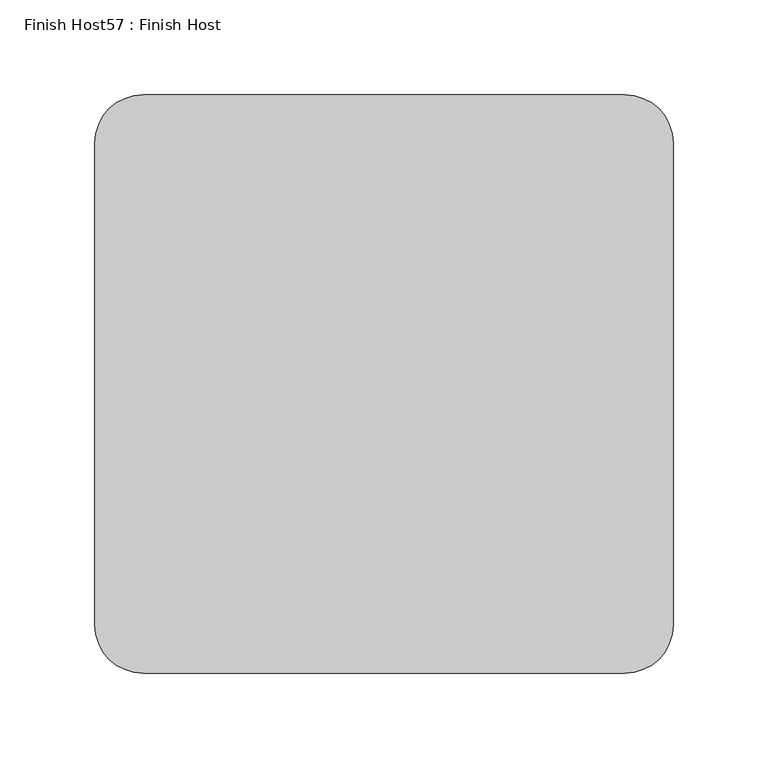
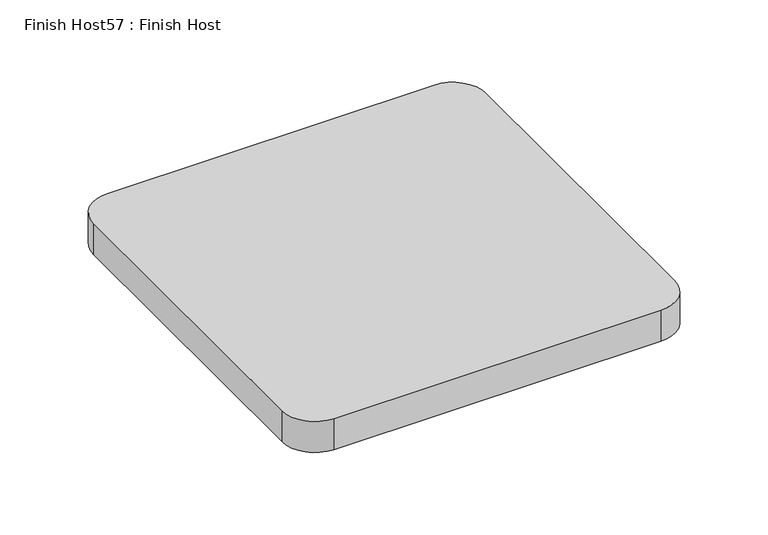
"""IFC4 building model written with IfcOpenShell, lengths in millimetres: proxy geometry, Finish Host57 : Finish Host."""

import ifcopenshell
import ifcopenshell.guid

model = None  # the IFC model being written
_history = None  # IfcOwnerHistory: only IFC2X3 demands one
_inside = {}  # id of a spatial element -> (the spatial element, [elements in it])
_under = {}  # id of a project, library or spatial element -> (it, [spatial elements below it])
_declared = {}  # id of a project -> (the project, [libraries it declares])
_typed = {}  # id of a type object -> (the type object, [elements of that type])
_made_of = {}  # id of a material, layer set ... -> (it, [elements and type objects made of it])


def new_model(schema):
    """Start an empty IFC model of exactly this schema.

    Asked for "IFC4X3", IfcOpenShell would pick the latest addendum, in which some entities
    have other attributes; the version numbers below select the first issue.
    IFC2X3 requires an IfcOwnerHistory on every rooted entity: one is made here for all.
    """
    global model, _history
    if schema == "IFC4X3":
        model = ifcopenshell.file(schema_version=(4, 3, 0, 0))
    else:
        model = ifcopenshell.file(schema=schema)
    _inside.clear()
    _under.clear()
    _declared.clear()
    _typed.clear()
    _made_of.clear()
    _history = None
    if model.schema == "IFC2X3":
        org = make("IfcOrganization", Name="unknown")
        user = make(
            "IfcPersonAndOrganization",
            ThePerson=make("IfcPerson", FamilyName="unknown"),
            TheOrganization=org,
        )
        app = make(
            "IfcApplication",
            ApplicationDeveloper=org,
            Version="unknown",
            ApplicationFullName="unknown",
            ApplicationIdentifier="unknown",
        )
        _history = make(
            "IfcOwnerHistory",
            OwningUser=user,
            OwningApplication=app,
            ChangeAction="ADDED",
            CreationDate=0,
        )
    return model


def make(cls, **values):
    """One entity of the class cls with the attributes given. An attribute that is None is left unset."""
    return model.create_entity(
        cls, **{name: value for name, value in values.items() if value is not None}
    )


def rooted(cls, **values):
    """An entity with a GlobalId (a new one), such as an element, a storey or a relation."""
    return make(cls, GlobalId=ifcopenshell.guid.new(), OwnerHistory=_history, **values)


def si_unit(unit_type, name, prefix=None):
    """IfcSIUnit, for example si_unit("LENGTHUNIT", "METRE", prefix="MILLI")."""
    return make("IfcSIUnit", UnitType=unit_type, Prefix=prefix, Name=name)


def assignment(units):
    """IfcUnitAssignment: the units of a project."""
    return None if units is None else make("IfcUnitAssignment", Units=units)


def point(xyz):
    """IfcCartesianPoint."""
    return None if xyz is None else make("IfcCartesianPoint", Coordinates=xyz)


def direction(xyz):
    """IfcDirection."""
    return None if xyz is None else make("IfcDirection", DirectionRatios=xyz)


def frame(location, z_axis=None, x_axis=None):
    """IfcAxis2Placement3D, a coordinate frame: its origin and axes. An axis left out is left unset."""
    return make(
        "IfcAxis2Placement3D",
        Location=point(location),
        Axis=direction(z_axis),
        RefDirection=direction(x_axis),
    )


def frame_2d(location, x_axis=None):
    """IfcAxis2Placement2D, a coordinate frame in the plane: its origin and x axis."""
    return make(
        "IfcAxis2Placement2D", Location=point(location), RefDirection=direction(x_axis)
    )


def origin():
    """The frame at (0, 0, 0) with its axes left unset."""
    return frame((0.0, 0.0, 0.0))


def origin_with_axes():
    """The frame at (0, 0, 0) with the z axis (0, 0, 1) and the x axis (1, 0, 0) written out."""
    return frame((0.0, 0.0, 0.0), z_axis=(0.0, 0.0, 1.0), x_axis=(1.0, 0.0, 0.0))


def place(relative_to, where):
    """IfcLocalPlacement: puts the frame where relative to a parent placement (None: the world)."""
    return make(
        "IfcLocalPlacement", PlacementRelTo=relative_to, RelativePlacement=where
    )


def context(
    kind, dimensions, precision=None, world=None, true_north=None, identifier=None
):
    """IfcGeometricRepresentationContext, for example the 3D "Model" context."""
    return make(
        "IfcGeometricRepresentationContext",
        ContextIdentifier=identifier,
        ContextType=kind,
        CoordinateSpaceDimension=dimensions,
        Precision=precision,
        WorldCoordinateSystem=world,
        TrueNorth=true_north,
    )


def project(units=None, contexts=None):
    """IfcProject with its units and contexts."""
    return rooted(
        "IfcProject",
        Name="project",
        RepresentationContexts=contexts,
        UnitsInContext=assignment(units),
    )


def spatial(cls, under=None, at=None, **own):
    """A site, building, storey or space (cls), placed at a placement, below another one or the project."""
    s = rooted(cls, ObjectPlacement=at, **own)
    if under is not None:
        _under.setdefault(under.id(), (under, []))[1].append(s)
    return s


def polyline(points):
    """IfcPolyline through the points."""
    return make("IfcPolyline", Points=[point(p) for p in points])


def circle_curve(where, radius):
    """IfcCircle in the frame where."""
    return make("IfcCircle", Position=where, Radius=radius)


def trimmed(basis, trim1, trim2, sense, master):
    """IfcTrimmedCurve: the piece of a basis curve between two trims."""
    return make(
        "IfcTrimmedCurve",
        BasisCurve=basis,
        Trim1=trim1,
        Trim2=trim2,
        SenseAgreement=sense,
        MasterRepresentation=master,
    )


def segment(curve, same_sense, transition):
    """IfcCompositeCurveSegment."""
    return make(
        "IfcCompositeCurveSegment",
        Transition=transition,
        SameSense=same_sense,
        ParentCurve=curve,
    )


def composite_curve(segments, self_intersect=None):
    """IfcCompositeCurve: segments joined end to end."""
    return make("IfcCompositeCurve", Segments=segments, SelfIntersect=self_intersect)


def outline(outer, holes=None, kind="AREA"):
    """IfcArbitraryClosedProfileDef: a profile drawn as a closed curve; with holes, ...WithVoids."""
    if holes is None:
        return make("IfcArbitraryClosedProfileDef", ProfileType=kind, OuterCurve=outer)
    return make(
        "IfcArbitraryProfileDefWithVoids",
        ProfileType=kind,
        OuterCurve=outer,
        InnerCurves=holes,
    )


def extrude(swept, where, along, depth):
    """IfcExtrudedAreaSolid: the profile swept, set in the frame where, extruded along a direction by depth."""
    return make(
        "IfcExtrudedAreaSolid",
        SweptArea=swept,
        Position=where,
        ExtrudedDirection=direction(along),
        Depth=depth,
    )


def shape(context_of_items, identifier, shape_type, items):
    """IfcShapeRepresentation: the items that make up one representation, for example the "Body"."""
    return make(
        "IfcShapeRepresentation",
        ContextOfItems=context_of_items,
        RepresentationIdentifier=identifier,
        RepresentationType=shape_type,
        Items=items,
    )


def source(mapping_origin, context_of_items, identifier, shape_type, items):
    """IfcRepresentationMap: a shape defined once, which mapped items show again and again."""
    return make(
        "IfcRepresentationMap",
        MappingOrigin=mapping_origin,
        MappedRepresentation=shape(context_of_items, identifier, shape_type, items),
    )


def transform(
    local_origin,
    x_axis=None,
    y_axis=None,
    z_axis=None,
    scale=None,
    scale2=None,
    scale3=None,
    uniform=True,
):
    """IfcCartesianTransformationOperator3D, or its non-uniform kind. x_axis, y_axis, z_axis: its Axis1, 2, 3."""
    if uniform:
        return make(
            "IfcCartesianTransformationOperator3D",
            Axis1=direction(x_axis),
            Axis2=direction(y_axis),
            LocalOrigin=point(local_origin),
            Scale=scale,
            Axis3=direction(z_axis),
        )
    return make(
        "IfcCartesianTransformationOperator3DnonUniform",
        Axis1=direction(x_axis),
        Axis2=direction(y_axis),
        LocalOrigin=point(local_origin),
        Scale=scale,
        Axis3=direction(z_axis),
        Scale2=scale2,
        Scale3=scale3,
    )


def mapped(mapping_source, mapping_target):
    """IfcMappedItem: shows the shape of a source again, moved by a transform."""
    return make(
        "IfcMappedItem", MappingSource=mapping_source, MappingTarget=mapping_target
    )


def made_of(thing, what):
    """Note that an element or type object is made of a material, layer set ...; save() writes the relation."""
    if what is not None:
        _made_of.setdefault(what.id(), (what, []))[1].append(thing)
    return thing


def element(
    cls,
    number,
    at=None,
    inside=None,
    cuts=None,
    type_object=None,
    material=None,
    context=None,
    identifier="Body",
    shape_type=None,
    held_by="IfcProductDefinitionShape",
    body=None,
    shapes=None,
    **own,
):
    """One element of the class cls, such as IfcWall. Its Tag is "e" and its number.

    at: its placement. inside: the storey or other place that contains it. cuts: it is an
    opening in that element (IfcRelVoidsElement). A single representation is given by context,
    identifier, shape_type and body (its items); several are given by shapes. held_by: the class
    of the entity that holds the representations. save() writes the other relations.
    """
    e = rooted(cls, Tag="e%d" % number, ObjectPlacement=at, **own)
    if body is not None:
        shapes = [shape(context, identifier, shape_type, body)]
    if shapes is not None:
        e.Representation = make(held_by, Representations=shapes)
    if inside is not None:
        _inside.setdefault(inside.id(), (inside, []))[1].append(e)
    if cuts is not None:
        rooted(
            "IfcRelVoidsElement", RelatingBuildingElement=cuts, RelatedOpeningElement=e
        )
    if type_object is not None:
        _typed.setdefault(type_object.id(), (type_object, []))[1].append(e)
    return made_of(e, material)


def aggregate(whole, parts):
    """IfcRelAggregates: a whole, such as a stair, and the parts it consists of."""
    return rooted("IfcRelAggregates", RelatingObject=whole, RelatedObjects=parts)


def save(model, path):
    """Write the relations noted so far, then the file.

    IfcRelAggregates (storeys below a building ...), IfcRelContainedInSpatialStructure (elements
    in a storey), IfcRelDefinesByType, IfcRelAssociatesMaterial and IfcRelDeclares: one each for
    every whole, place, type object, material and project.
    """
    for whole, parts in _under.values():
        aggregate(whole, parts)
    for where, things in _inside.values():
        rooted(
            "IfcRelContainedInSpatialStructure",
            RelatedElements=things,
            RelatingStructure=where,
        )
    for kind, things in _typed.values():
        rooted("IfcRelDefinesByType", RelatedObjects=things, RelatingType=kind)
    for what, things in _made_of.values():
        rooted("IfcRelAssociatesMaterial", RelatedObjects=things, RelatingMaterial=what)
    for by, libraries in _declared.values():
        rooted("IfcRelDeclares", RelatingContext=by, RelatedDefinitions=libraries)
    model.write(path)


def finish_host57_finish_host_ed8a52d6(model_context):
    return source(origin(), model_context, "Body", "SweptSolid", [
        extrude(outline(composite_curve([segment(polyline([(2308.6934426, 546.4122951), (2308.6934426, 800.4122951)]), True, "CONTINUOUS"), segment(trimmed(circle_curve(frame_2d((2334.0934426, 800.4122951)), 25.4), [point((2308.6934426, 800.4122951))], [point((2334.0934426, 825.8122951))], False, "CARTESIAN"), True, "CONTINUOUS"), segment(polyline([(2334.0934426, 825.8122951), (2588.0934426, 825.8122951)]), True, "CONTINUOUS"), segment(trimmed(circle_curve(frame_2d((2588.0934426, 800.4122951)), 25.4), [point((2588.0934426, 825.8122951))], [point((2613.4934426, 800.4122951))], False, "CARTESIAN"), True, "CONTINUOUS"), segment(polyline([(2613.4934426, 800.4122951), (2613.4934426, 546.4122951)]), True, "CONTINUOUS"), segment(trimmed(circle_curve(frame_2d((2588.0934426, 546.4122951)), 25.4), [point((2613.4934426, 546.4122951))], [point((2588.0934426, 521.0122951))], False, "CARTESIAN"), True, "CONTINUOUS"), segment(polyline([(2588.0934426, 521.0122951), (2334.0934426, 521.0122951)]), True, "CONTINUOUS"), segment(trimmed(circle_curve(frame_2d((2334.0934426, 546.4122951)), 25.4), [point((2334.0934426, 521.0122951))], [point((2308.6934426, 546.4122951))], False, "CARTESIAN"), True, "CONTINUOUS")], self_intersect=False)), origin_with_axes(), (0.0, 0.0, 1.0), 25.4),
    ])


if __name__ == "__main__":
    model = new_model("IFC4")
    model_context = context("Model", 3, world=origin())
    ifc_project = project(units=[si_unit("LENGTHUNIT", "METRE", prefix="MILLI")], contexts=[model_context])
    site = spatial("IfcSite", under=ifc_project)
    building = spatial("IfcBuilding", under=site)
    placement = place(None, origin())
    finish_host57_finish_host_shape = finish_host57_finish_host_ed8a52d6(model_context)
    element("IfcBuildingElementProxy", 1, Name="Finish Host57 : Finish Host", ObjectType="Finish Host57 : Finish Host", at=placement, inside=building, context=model_context, shape_type="MappedRepresentation", body=[
        mapped(finish_host57_finish_host_shape, transform((0.0, 0.0, 0.0), x_axis=(1.0, 0.0, 0.0), y_axis=(0.0, 1.0, 0.0), z_axis=(0.0, 0.0, 1.0))),
    ])
    save(model, "model.ifc")
